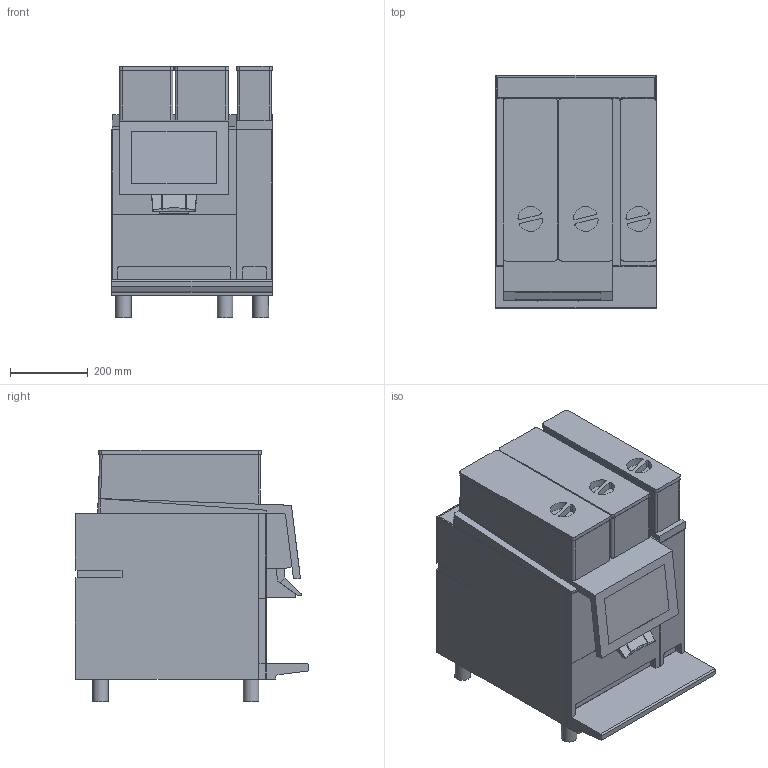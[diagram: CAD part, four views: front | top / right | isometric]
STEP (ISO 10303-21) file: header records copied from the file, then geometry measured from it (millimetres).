
FILE_DESCRIPTION(/* description */ ('Unknown'),/* implementation_level */ '2;1');
FILE_NAME(/* name */ 'HM_BW4-CTM-P',/* time_stamp */ '2026-08-14T11:17:48+02:00',/* author */ ('Unknown'),/* organization */ ('Unknown'),/* preprocessor_version */ 'ST-DEVELOPER v20',/* originating_system */ 'Solid Edge',/* authorisation */ 'Unknown');
FILE_SCHEMA (('AUTOMOTIVE_DESIGN {1 0 10303 214 3 1 1}'));
Length unit declared in the file: millimetre
Products named in the file (1): HM_BW4-CTM-P
Bounding box: 413.3 x 599.39 x 645.65 mm (x, y, z)
Volume: 114878262.1 mm3; surface area: 2055737.2 mm2
Topology: 1 solids, 1 shells, 311 faces, 855 edges, 550 vertices
Faces by surface type: plane 219, cylinder 88, sphere 4
Full cylindrical faces by diameter (mm): 40 x6
Entity records: 11981 total; most frequent: CARTESIAN_POINT 1701, ORIENTED_EDGE 1684, DIRECTION 1661, EDGE_CURVE 842, LINE 647, VECTOR 647, VERTEX_POINT 547, AXIS2_PLACEMENT_3D 507
